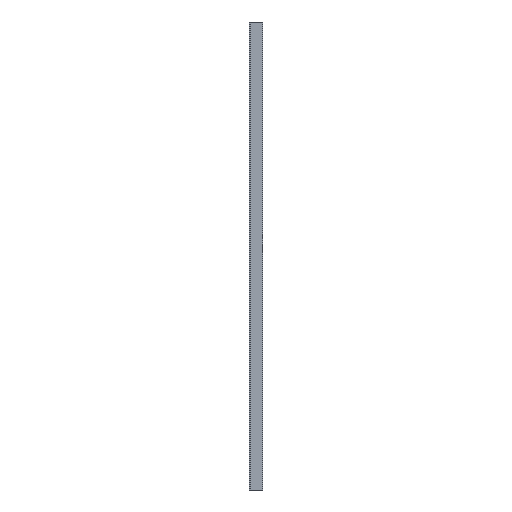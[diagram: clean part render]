
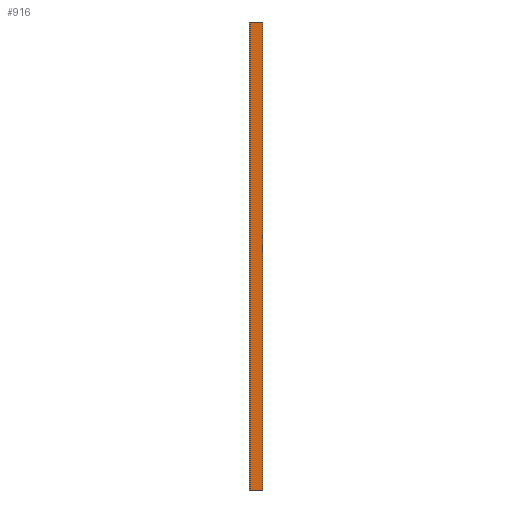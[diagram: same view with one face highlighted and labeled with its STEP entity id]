
A CAD part, left-side view. The second image highlights one B-rep face of the part: STEP entity #916.
In plain terms, the highlighted planar face has unit normal (-1, 0, 0).
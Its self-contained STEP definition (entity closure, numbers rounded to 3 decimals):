
#50 = DIRECTION ( 'NONE',  ( 0., 1., 0. ) ) ;
#51 = PLANE ( 'NONE',  #669 ) ;
#155 = EDGE_CURVE ( 'NONE', #1104, #176, #298, .T. ) ;
#174 = LINE ( 'NONE', #791, #1075 ) ;
#176 = VERTEX_POINT ( 'NONE', #595 ) ;
#238 = DIRECTION ( 'NONE',  ( 0., 0., 1. ) ) ;
#241 = EDGE_CURVE ( 'NONE', #1104, #501, #473, .T. ) ;
#277 = ORIENTED_EDGE ( 'NONE', *, *, #155, .F. ) ;
#298 = LINE ( 'NONE', #939, #325 ) ;
#300 = DIRECTION ( 'NONE',  ( 0., 1., 0. ) ) ;
#307 = LINE ( 'NONE', #754, #1020 ) ;
#308 = VECTOR ( 'NONE', #756, 1000. ) ;
#325 = VECTOR ( 'NONE', #50, 1000. ) ;
#407 = CARTESIAN_POINT ( 'NONE',  ( -505.5, -20., 50. ) ) ;
#473 = LINE ( 'NONE', #832, #308 ) ;
#501 = VERTEX_POINT ( 'NONE', #407 ) ;
#568 = EDGE_CURVE ( 'NONE', #501, #768, #307, .T. ) ;
#576 = CARTESIAN_POINT ( 'NONE',  ( -505.5, -20., -654. ) ) ;
#595 = CARTESIAN_POINT ( 'NONE',  ( -505.5, 0., -654. ) ) ;
#620 = EDGE_CURVE ( 'NONE', #176, #768, #174, .T. ) ;
#669 = AXIS2_PLACEMENT_3D ( 'NONE', #763, #1096, #675 ) ;
#675 = DIRECTION ( 'NONE',  ( 0., 0., 1. ) ) ;
#721 = CARTESIAN_POINT ( 'NONE',  ( -505.5, 0., 50. ) ) ;
#754 = CARTESIAN_POINT ( 'NONE',  ( -505.5, -20., 50. ) ) ;
#756 = DIRECTION ( 'NONE',  ( 0., 0., 1. ) ) ;
#763 = CARTESIAN_POINT ( 'NONE',  ( -505.5, -20., -654. ) ) ;
#768 = VERTEX_POINT ( 'NONE', #721 ) ;
#791 = CARTESIAN_POINT ( 'NONE',  ( -505.5, 0., -654. ) ) ;
#832 = CARTESIAN_POINT ( 'NONE',  ( -505.5, -20., -654. ) ) ;
#838 = FACE_OUTER_BOUND ( 'NONE', #894, .T. ) ;
#852 = ORIENTED_EDGE ( 'NONE', *, *, #568, .T. ) ;
#894 = EDGE_LOOP ( 'NONE', ( #928, #277, #958, #852 ) ) ;
#916 = ADVANCED_FACE ( 'NONE', ( #838 ), #51, .T. ) ;
#928 = ORIENTED_EDGE ( 'NONE', *, *, #620, .F. ) ;
#939 = CARTESIAN_POINT ( 'NONE',  ( -505.5, -20., -654. ) ) ;
#958 = ORIENTED_EDGE ( 'NONE', *, *, #241, .T. ) ;
#1020 = VECTOR ( 'NONE', #300, 1000. ) ;
#1075 = VECTOR ( 'NONE', #238, 1000. ) ;
#1096 = DIRECTION ( 'NONE',  ( -1., 0., 0. ) ) ;
#1104 = VERTEX_POINT ( 'NONE', #576 ) ;
